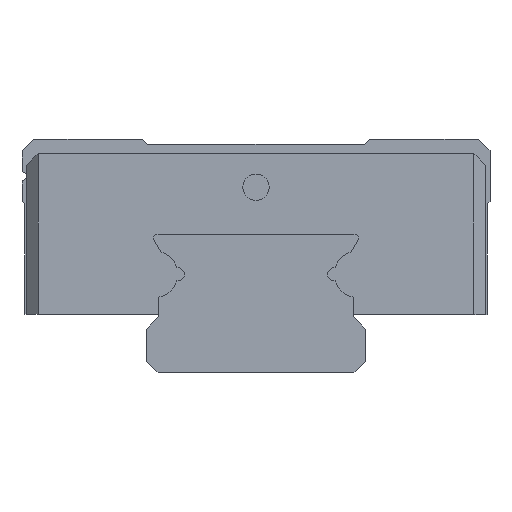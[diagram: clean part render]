
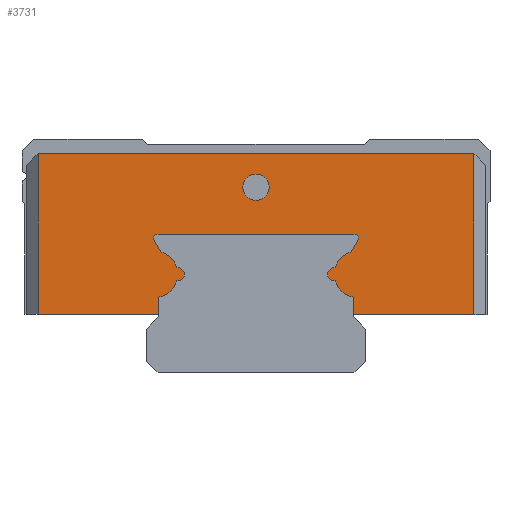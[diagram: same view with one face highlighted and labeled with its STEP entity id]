
A CAD part, left-side view. The second image highlights one B-rep face of the part: STEP entity #3731.
In plain terms, the highlighted planar face has unit normal (-1, 0, 0).
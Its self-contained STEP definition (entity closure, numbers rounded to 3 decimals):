
#1660=CARTESIAN_POINT('',(0.0,6.65,4.0));
#1661=VERTEX_POINT('',#1660);
#1668=CARTESIAN_POINT('',(0.0,14.9,4.0));
#1669=VERTEX_POINT('',#1668);
#1670=CARTESIAN_POINT('',(0.0,14.9,4.0));
#1671=DIRECTION('',(0.0,-1.0,0.0));
#1672=VECTOR('',#1671,8.25);
#1673=LINE('',#1670,#1672);
#1674=EDGE_CURVE('',#1669,#1661,#1673,.T.);
#1914=CARTESIAN_POINT('',(0.0,-14.9,4.));
#1915=VERTEX_POINT('',#1914);
#1922=CARTESIAN_POINT('',(0.0,-6.65,4.));
#1923=VERTEX_POINT('',#1922);
#1924=CARTESIAN_POINT('',(0.0,-6.65,4.));
#1925=DIRECTION('',(0.0,-1.0,0.0));
#1926=VECTOR('',#1925,8.25);
#1927=LINE('',#1924,#1926);
#1928=EDGE_CURVE('',#1923,#1915,#1927,.T.);
#2149=CARTESIAN_POINT('',(0.0,0.9,12.7));
#2150=VERTEX_POINT('',#2149);
#2151=CARTESIAN_POINT('',(0.0,0.,12.7));
#2152=DIRECTION('',(1.0,0.0,0.0));
#2153=DIRECTION('',(0.0,-1.0,0.0));
#2154=AXIS2_PLACEMENT_3D('',#2151,#2152,#2153);
#2155=CIRCLE('',#2154,0.9);
#2156=EDGE_CURVE('',#2150,#2150,#2155,.T.);
#3136=CARTESIAN_POINT('',(0.0,14.9,15.0));
#3137=VERTEX_POINT('',#3136);
#3144=CARTESIAN_POINT('',(0.0,-14.9,15.));
#3145=VERTEX_POINT('',#3144);
#3146=CARTESIAN_POINT('',(0.0,-14.9,15.));
#3147=DIRECTION('',(0.0,1.0,0.0));
#3148=VECTOR('',#3147,29.8);
#3149=LINE('',#3146,#3148);
#3150=EDGE_CURVE('',#3145,#3137,#3149,.T.);
#3170=CARTESIAN_POINT('',(0.0,-14.9,4.));
#3171=DIRECTION('',(0.0,0.0,1.0));
#3172=VECTOR('',#3171,11.);
#3173=LINE('',#3170,#3172);
#3174=EDGE_CURVE('',#1915,#3145,#3173,.T.);
#3211=CARTESIAN_POINT('',(0.0,14.9,15.0));
#3212=DIRECTION('',(0.0,0.0,-1.0));
#3213=VECTOR('',#3212,11.0);
#3214=LINE('',#3211,#3213);
#3215=EDGE_CURVE('',#3137,#1669,#3214,.T.);
#3277=CARTESIAN_POINT('',(0.0,6.65,5.178));
#3278=VERTEX_POINT('',#3277);
#3285=CARTESIAN_POINT('',(0.0,6.65,4.0));
#3286=DIRECTION('',(0.0,0.0,1.0));
#3287=VECTOR('',#3286,1.178);
#3288=LINE('',#3285,#3287);
#3289=EDGE_CURVE('',#1661,#3278,#3288,.T.);
#3309=CARTESIAN_POINT('',(0.0,5.413,6.304));
#3310=VERTEX_POINT('',#3309);
#3317=CARTESIAN_POINT('',(0.0,6.95,6.75));
#3318=DIRECTION('',(-1.,0.0,0.0));
#3319=DIRECTION('',(0.0,0.96,0.278));
#3320=AXIS2_PLACEMENT_3D('',#3317,#3318,#3319);
#3321=CIRCLE('',#3320,1.6);
#3322=EDGE_CURVE('',#3278,#3310,#3321,.T.);
#3342=CARTESIAN_POINT('',(0.0,5.413,7.196));
#3343=VERTEX_POINT('',#3342);
#3350=CARTESIAN_POINT('',(0.0,5.35,6.75));
#3351=DIRECTION('',(-1.,0.0,0.0));
#3352=DIRECTION('',(0.0,-0.141,-0.99));
#3353=AXIS2_PLACEMENT_3D('',#3350,#3351,#3352);
#3354=CIRCLE('',#3353,0.45);
#3355=EDGE_CURVE('',#3310,#3343,#3354,.T.);
#3375=CARTESIAN_POINT('',(0.0,6.522,8.292));
#3376=VERTEX_POINT('',#3375);
#3383=CARTESIAN_POINT('',(0.0,6.95,6.75));
#3384=DIRECTION('',(-1.,0.0,0.0));
#3385=DIRECTION('',(0.0,0.268,-0.964));
#3386=AXIS2_PLACEMENT_3D('',#3383,#3384,#3385);
#3387=CIRCLE('',#3386,1.6);
#3388=EDGE_CURVE('',#3343,#3376,#3387,.T.);
#3407=CARTESIAN_POINT('',(0.0,6.96,9.05));
#3408=VERTEX_POINT('',#3407);
#3415=CARTESIAN_POINT('',(0.0,6.522,8.292));
#3416=DIRECTION('',(0.0,0.5,0.866));
#3417=VECTOR('',#3416,0.876);
#3418=LINE('',#3415,#3417);
#3419=EDGE_CURVE('',#3376,#3408,#3418,.T.);
#3439=CARTESIAN_POINT('',(0.0,6.7,9.5));
#3440=VERTEX_POINT('',#3439);
#3447=CARTESIAN_POINT('',(0.0,6.7,9.2));
#3448=DIRECTION('',(1.0,0.0,0.0));
#3449=DIRECTION('',(0.0,0.866,-0.5));
#3450=AXIS2_PLACEMENT_3D('',#3447,#3448,#3449);
#3451=CIRCLE('',#3450,0.3);
#3452=EDGE_CURVE('',#3408,#3440,#3451,.T.);
#3471=CARTESIAN_POINT('',(0.0,-6.7,9.5));
#3472=VERTEX_POINT('',#3471);
#3479=CARTESIAN_POINT('',(0.0,6.7,9.5));
#3480=DIRECTION('',(0.0,-1.0,0.0));
#3481=VECTOR('',#3480,13.4);
#3482=LINE('',#3479,#3481);
#3483=EDGE_CURVE('',#3440,#3472,#3482,.T.);
#3503=CARTESIAN_POINT('',(0.0,-6.96,9.05));
#3504=VERTEX_POINT('',#3503);
#3511=CARTESIAN_POINT('',(0.0,-6.7,9.2));
#3512=DIRECTION('',(1.0,0.0,0.0));
#3513=DIRECTION('',(0.0,0.,1.0));
#3514=AXIS2_PLACEMENT_3D('',#3511,#3512,#3513);
#3515=CIRCLE('',#3514,0.3);
#3516=EDGE_CURVE('',#3472,#3504,#3515,.T.);
#3535=CARTESIAN_POINT('',(0.0,-6.522,8.292));
#3536=VERTEX_POINT('',#3535);
#3543=CARTESIAN_POINT('',(0.0,-6.96,9.05));
#3544=DIRECTION('',(0.0,0.5,-0.866));
#3545=VECTOR('',#3544,0.876);
#3546=LINE('',#3543,#3545);
#3547=EDGE_CURVE('',#3504,#3536,#3546,.T.);
#3567=CARTESIAN_POINT('',(0.0,-5.413,7.196));
#3568=VERTEX_POINT('',#3567);
#3575=CARTESIAN_POINT('',(0.0,-6.95,6.75));
#3576=DIRECTION('',(-1.0,0.0,0.0));
#3577=DIRECTION('',(0.0,-0.96,-0.278));
#3578=AXIS2_PLACEMENT_3D('',#3575,#3576,#3577);
#3579=CIRCLE('',#3578,1.6);
#3580=EDGE_CURVE('',#3536,#3568,#3579,.T.);
#3600=CARTESIAN_POINT('',(0.0,-5.413,6.304));
#3601=VERTEX_POINT('',#3600);
#3608=CARTESIAN_POINT('',(0.0,-5.35,6.75));
#3609=DIRECTION('',(-1.0,0.0,0.0));
#3610=DIRECTION('',(0.0,0.141,0.99));
#3611=AXIS2_PLACEMENT_3D('',#3608,#3609,#3610);
#3612=CIRCLE('',#3611,0.45);
#3613=EDGE_CURVE('',#3568,#3601,#3612,.T.);
#3633=CARTESIAN_POINT('',(0.0,-6.65,5.178));
#3634=VERTEX_POINT('',#3633);
#3641=CARTESIAN_POINT('',(0.0,-6.95,6.75));
#3642=DIRECTION('',(-1.0,0.0,0.0));
#3643=DIRECTION('',(0.0,-0.188,0.982));
#3644=AXIS2_PLACEMENT_3D('',#3641,#3642,#3643);
#3645=CIRCLE('',#3644,1.6);
#3646=EDGE_CURVE('',#3601,#3634,#3645,.T.);
#3664=CARTESIAN_POINT('',(0.0,-6.65,5.178));
#3665=DIRECTION('',(0.0,0.0,-1.0));
#3666=VECTOR('',#3665,1.178);
#3667=LINE('',#3664,#3666);
#3668=EDGE_CURVE('',#3634,#1923,#3667,.T.);
#3703=CARTESIAN_POINT('',(0.0,0.,9.834));
#3704=DIRECTION('',(1.0,0.0,0.0));
#3705=DIRECTION('',(0.0,0.0,-1.0));
#3706=AXIS2_PLACEMENT_3D('',#3703,#3704,#3705);
#3707=PLANE('',#3706);
#3708=ORIENTED_EDGE('',*,*,#1928,.T.);
#3709=ORIENTED_EDGE('',*,*,#3174,.T.);
#3710=ORIENTED_EDGE('',*,*,#3150,.T.);
#3711=ORIENTED_EDGE('',*,*,#3215,.T.);
#3712=ORIENTED_EDGE('',*,*,#1674,.T.);
#3713=ORIENTED_EDGE('',*,*,#3289,.T.);
#3714=ORIENTED_EDGE('',*,*,#3322,.T.);
#3715=ORIENTED_EDGE('',*,*,#3355,.T.);
#3716=ORIENTED_EDGE('',*,*,#3388,.T.);
#3717=ORIENTED_EDGE('',*,*,#3419,.T.);
#3718=ORIENTED_EDGE('',*,*,#3452,.T.);
#3719=ORIENTED_EDGE('',*,*,#3483,.T.);
#3720=ORIENTED_EDGE('',*,*,#3516,.T.);
#3721=ORIENTED_EDGE('',*,*,#3547,.T.);
#3722=ORIENTED_EDGE('',*,*,#3580,.T.);
#3723=ORIENTED_EDGE('',*,*,#3613,.T.);
#3724=ORIENTED_EDGE('',*,*,#3646,.T.);
#3725=ORIENTED_EDGE('',*,*,#3668,.T.);
#3726=EDGE_LOOP('',(#3708,#3709,#3710,#3711,#3712,#3713,#3714,#3715,#3716,#3717,#3718,#3719,#3720,#3721,#3722,#3723,#3724,#3725));
#3727=FACE_OUTER_BOUND('',#3726,.T.);
#3728=ORIENTED_EDGE('',*,*,#2156,.T.);
#3729=EDGE_LOOP('',(#3728));
#3730=FACE_BOUND('',#3729,.T.);
#3731=ADVANCED_FACE('',(#3727,#3730),#3707,.F.);
